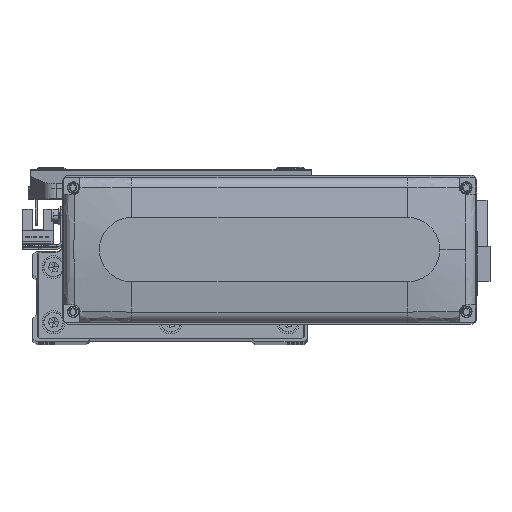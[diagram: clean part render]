
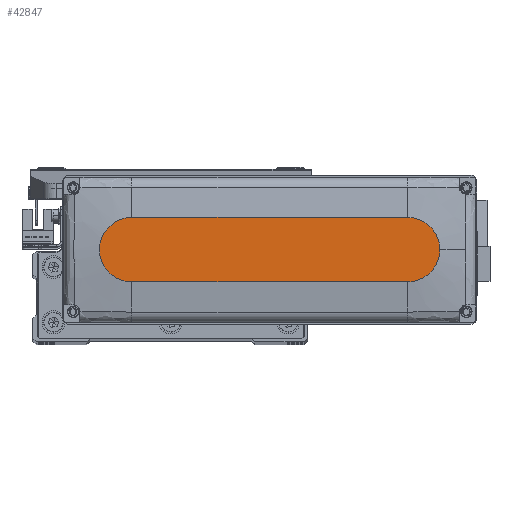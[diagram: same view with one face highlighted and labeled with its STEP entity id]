
A CAD part, top view. The second image highlights one B-rep face of the part: STEP entity #42847.
In plain terms, the highlighted planar face has unit normal (0, 0, 1).
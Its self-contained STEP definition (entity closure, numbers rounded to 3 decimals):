
#19 = CARTESIAN_POINT ( 'NONE',  ( 60., -14., 28.5 ) ) ;
#268 = EDGE_LOOP ( 'NONE', ( #18809, #34234, #13426, #37087, #1647 ) ) ;
#444 = CIRCLE ( 'NONE', #47545, 14. ) ;
#1647 = ORIENTED_EDGE ( 'NONE', *, *, #16765, .T. ) ;
#3302 = EDGE_CURVE ( 'NONE', #39597, #36132, #444, .T. ) ;
#3999 = VECTOR ( 'NONE', #26931, 1000. ) ;
#5363 = DIRECTION ( 'NONE',  ( 1., 0., 0. ) ) ;
#7733 = VERTEX_POINT ( 'NONE', #19 ) ;
#7739 = DIRECTION ( 'NONE',  ( 0., 0., 1. ) ) ;
#8103 = VERTEX_POINT ( 'NONE', #23391 ) ;
#10299 = LINE ( 'NONE', #30870, #3999 ) ;
#10980 = DIRECTION ( 'NONE',  ( 1., 0., 0. ) ) ;
#13005 = DIRECTION ( 'NONE',  ( 0., 0., 1. ) ) ;
#13426 = ORIENTED_EDGE ( 'NONE', *, *, #19475, .T. ) ;
#14956 = LINE ( 'NONE', #31045, #36633 ) ;
#16765 = EDGE_CURVE ( 'NONE', #49472, #8103, #42014, .T. ) ;
#18809 = ORIENTED_EDGE ( 'NONE', *, *, #34187, .T. ) ;
#19179 = DIRECTION ( 'NONE',  ( 0., 0., 1. ) ) ;
#19475 = EDGE_CURVE ( 'NONE', #36132, #7733, #10299, .T. ) ;
#21014 = CARTESIAN_POINT ( 'NONE',  ( -60., -14., 28.5 ) ) ;
#22627 = FACE_OUTER_BOUND ( 'NONE', #268, .T. ) ;
#23391 = CARTESIAN_POINT ( 'NONE',  ( 60., 14., 28.5 ) ) ;
#24380 = CARTESIAN_POINT ( 'NONE',  ( -60., 0., 28.5 ) ) ;
#26527 = EDGE_CURVE ( 'NONE', #7733, #49472, #45859, .T. ) ;
#26847 = CARTESIAN_POINT ( 'NONE',  ( 0., 0., 28.5 ) ) ;
#26931 = DIRECTION ( 'NONE',  ( 1., 0., 0. ) ) ;
#28579 = DIRECTION ( 'NONE',  ( 1., 0., 0. ) ) ;
#30093 = CARTESIAN_POINT ( 'NONE',  ( 60., 0., 28.5 ) ) ;
#30870 = CARTESIAN_POINT ( 'NONE',  ( -60., -14., 28.5 ) ) ;
#31045 = CARTESIAN_POINT ( 'NONE',  ( -60., 14., 28.5 ) ) ;
#34187 = EDGE_CURVE ( 'NONE', #8103, #39597, #14956, .T. ) ;
#34234 = ORIENTED_EDGE ( 'NONE', *, *, #3302, .T. ) ;
#36132 = VERTEX_POINT ( 'NONE', #21014 ) ;
#36209 = CARTESIAN_POINT ( 'NONE',  ( 60., 0., 28.5 ) ) ;
#36633 = VECTOR ( 'NONE', #47104, 1000. ) ;
#37087 = ORIENTED_EDGE ( 'NONE', *, *, #26527, .T. ) ;
#38328 = AXIS2_PLACEMENT_3D ( 'NONE', #30093, #41687, #49306 ) ;
#39597 = VERTEX_POINT ( 'NONE', #43234 ) ;
#41687 = DIRECTION ( 'NONE',  ( 0., 0., 1. ) ) ;
#42014 = CIRCLE ( 'NONE', #47063, 14. ) ;
#42847 = ADVANCED_FACE ( 'NONE', ( #22627 ), #43136, .T. ) ;
#43136 = PLANE ( 'NONE',  #49351 ) ;
#43234 = CARTESIAN_POINT ( 'NONE',  ( -60., 14., 28.5 ) ) ;
#45859 = CIRCLE ( 'NONE', #38328, 14. ) ;
#47063 = AXIS2_PLACEMENT_3D ( 'NONE', #36209, #7739, #28579 ) ;
#47104 = DIRECTION ( 'NONE',  ( -1., 0., 0. ) ) ;
#47545 = AXIS2_PLACEMENT_3D ( 'NONE', #24380, #13005, #5363 ) ;
#48646 = CARTESIAN_POINT ( 'NONE',  ( 74., 0., 28.5 ) ) ;
#49306 = DIRECTION ( 'NONE',  ( 1., 0., 0. ) ) ;
#49351 = AXIS2_PLACEMENT_3D ( 'NONE', #26847, #19179, #10980 ) ;
#49472 = VERTEX_POINT ( 'NONE', #48646 ) ;
